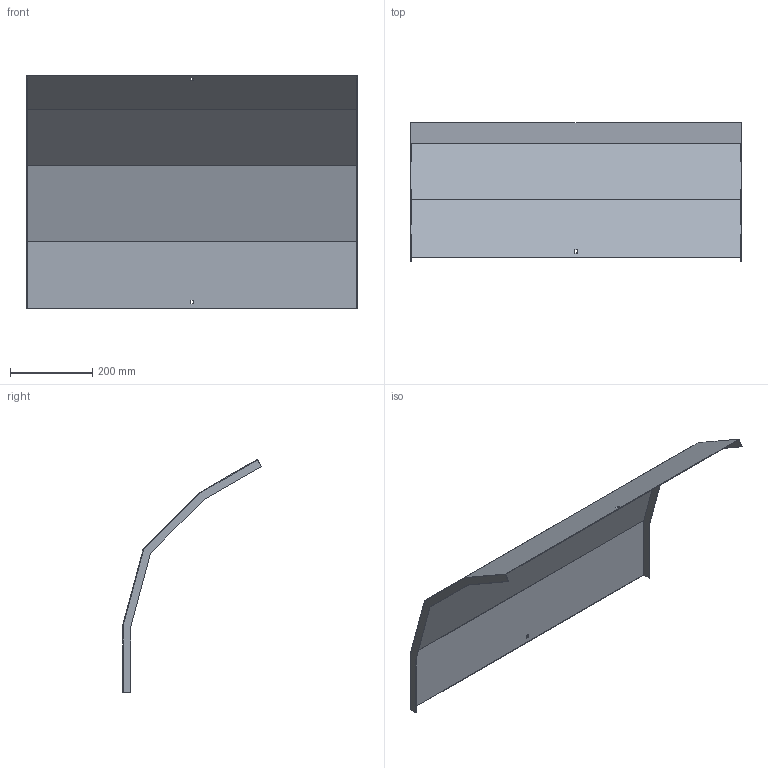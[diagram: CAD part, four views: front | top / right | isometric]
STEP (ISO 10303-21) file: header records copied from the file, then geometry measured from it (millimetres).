
FILE_DESCRIPTION (( 'STEP AP214' ), '1' );
FILE_NAME ('A2_41N3C800.step', '2025-02-21T10:39:33', ( '' ), ( '' ), 'SwSTEP 2.0', 'SolidWorks 2023', '' );
FILE_SCHEMA (( 'AUTOMOTIVE_DESIGN' ));
Length unit declared in the file: millimetre
Products named in the file (1): A2_41N3C800
Bounding box: 803 x 337.26 x 566.83 mm (x, y, z)
Volume: 894405.9 mm3; surface area: 1197226.7 mm2
Topology: 1 solids, 1 shells, 30 faces, 84 edges, 56 vertices
Faces by surface type: plane 30
Entity records: 979 total; most frequent: CARTESIAN_POINT 171, ORIENTED_EDGE 168, DIRECTION 146, VECTOR 84, LINE 84, EDGE_CURVE 84, VERTEX_POINT 56, EDGE_LOOP 34
